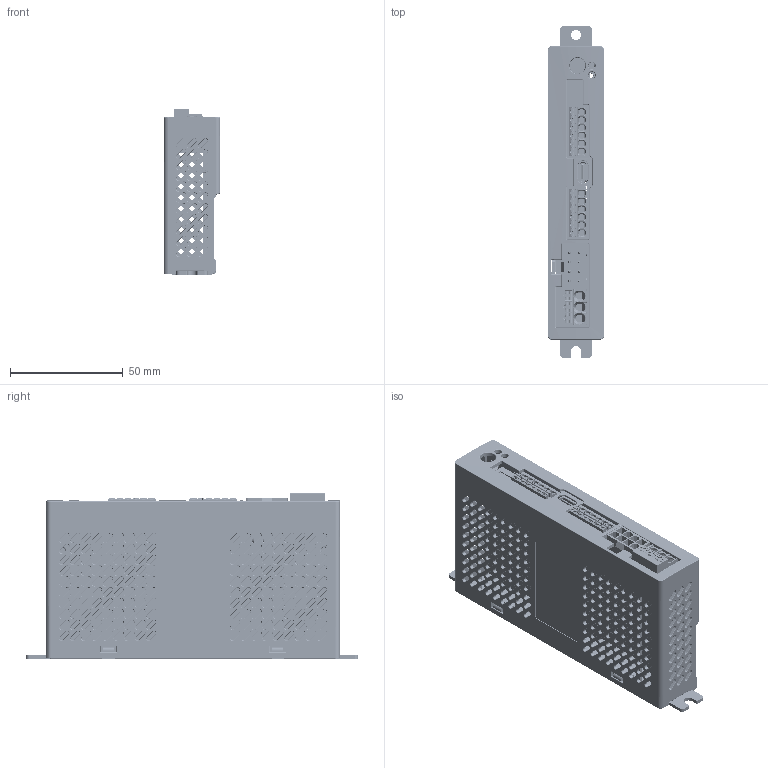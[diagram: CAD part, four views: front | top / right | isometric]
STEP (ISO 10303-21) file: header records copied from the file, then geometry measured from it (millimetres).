
FILE_DESCRIPTION (( 'STEP AP203' ), '1' );
FILE_NAME ('A1913.step', '2024-11-11T23:56:39', ( '' ), ( '' ), 'SwSTEP 2.0', 'SolidWorks 2023', '' );
FILE_SCHEMA (( 'CONFIG_CONTROL_DESIGN' ));
Products named in the file (1): A1913
Bounding box: 25 x 147 x 73.1 mm (x, y, z)
Volume: 60035.5 mm3; surface area: 86082.4 mm2
Topology: 1 solids, 1 shells, 10301 faces, 28051 edges, 17701 vertices
Faces by surface type: plane 5586, cylinder 2700, bspline 1895, cone 115, torus 5
Entity records: 395895 total; most frequent: CARTESIAN_POINT 149138, ORIENTED_EDGE 55854, DIRECTION 45685, EDGE_CURVE 27927, VECTOR 18735, LINE 18735, VERTEX_POINT 17701, AXIS2_PLACEMENT_3D 13475
